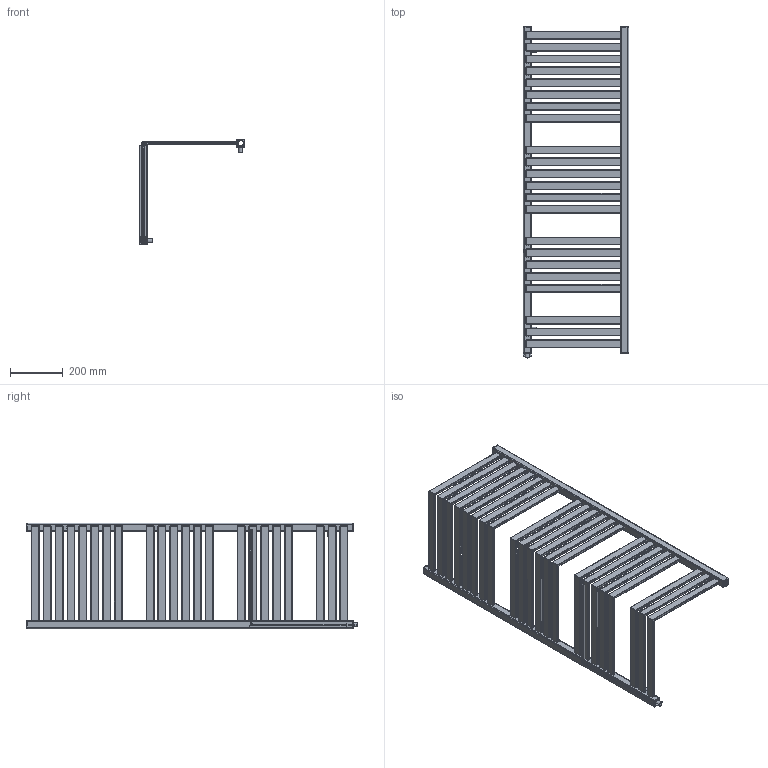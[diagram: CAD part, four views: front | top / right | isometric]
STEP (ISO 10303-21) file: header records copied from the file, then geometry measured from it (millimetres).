
FILE_DESCRIPTION( ( 'Unknown' ), '1' );
FILE_NAME( 'D:/Alplast sp. j/Witryna zespoBu - Projekty/Archiwum/Grzejniki Archiwum/Projekty/DESIGN PROGRAM/CORNER ALFA I BETA/CORNER ALFA 5.stp', 'Unknown', ( 'Unknown' ), ( 'Unknown' ), 'PSStep 10.1', 'Unknown', ' ' );
FILE_SCHEMA( ( 'AUTOMOTIVE_DESIGN { 1 0 10303 214 1 1 1 1 }' ) );
Length unit declared in the file: millimetre
Products named in the file (6): Assem1; kana³ po giêciu; kana³y 30x10 czêœæ do giêcia; AK5-N; zaslepka kwadrat otwor; mocowanie
Bounding box: 400 x 1258 x 400 mm (x, y, z)
Volume: 2192784.6 mm3; surface area: 3268065.4 mm2
Topology: 60 solids, 60 shells, 1756 faces, 4925 edges, 3252 vertices
Faces by surface type: plane 975, cylinder 771, torus 10
Full cylindrical faces by diameter (mm): 14 x5, 16 x5, 18.631 x5, 23 x5
Entity records: 10374 total; most frequent: DIRECTION 1491, CARTESIAN_POINT 1460, ORIENTED_EDGE 1390, EDGE_CURVE 695, AXIS2_PLACEMENT_3D 519, VERTEX_POINT 466, LINE 453, VECTOR 453
